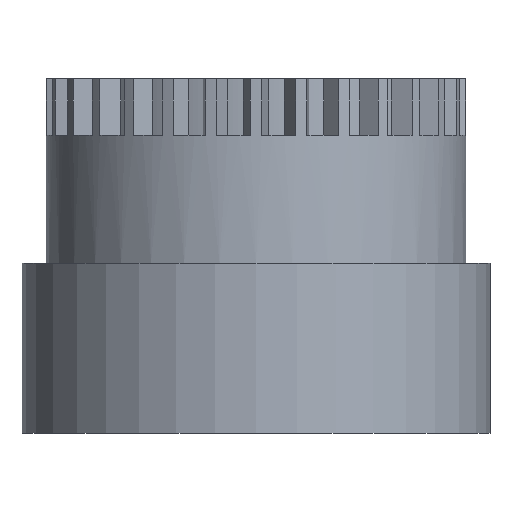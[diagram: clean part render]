
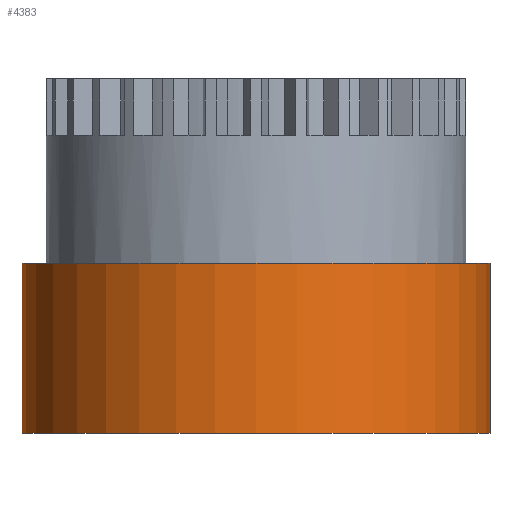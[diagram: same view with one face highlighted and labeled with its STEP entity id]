
A CAD part, front view. The second image highlights one B-rep face of the part: STEP entity #4383.
In plain terms, the highlighted cylindrical face has radius 16.5 mm (diameter 33 mm), a partial arc.
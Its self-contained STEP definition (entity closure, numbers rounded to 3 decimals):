
#60 = ORIENTED_EDGE ( 'NONE', *, *, #3677, .T. ) ;
#203 = VERTEX_POINT ( 'NONE', #4237 ) ;
#377 = CARTESIAN_POINT ( 'NONE',  ( -16.5, 0., 0. ) ) ;
#549 = VECTOR ( 'NONE', #908, 1000. ) ;
#601 = AXIS2_PLACEMENT_3D ( 'NONE', #2697, #942, #2349 ) ;
#886 = DIRECTION ( 'NONE',  ( 0., 0., -1. ) ) ;
#908 = DIRECTION ( 'NONE',  ( 0., 0., -1. ) ) ;
#910 = AXIS2_PLACEMENT_3D ( 'NONE', #1648, #2013, #2310 ) ;
#942 = DIRECTION ( 'NONE',  ( 0., 0., 1. ) ) ;
#950 = LINE ( 'NONE', #2268, #1566 ) ;
#1566 = VECTOR ( 'NONE', #3746, 1000. ) ;
#1633 = FACE_OUTER_BOUND ( 'NONE', #3945, .T. ) ;
#1648 = CARTESIAN_POINT ( 'NONE',  ( 0., 0., 0. ) ) ;
#1681 = CARTESIAN_POINT ( 'NONE',  ( 0., 0., 2. ) ) ;
#1799 = ORIENTED_EDGE ( 'NONE', *, *, #1920, .F. ) ;
#1890 = EDGE_CURVE ( 'NONE', #3158, #4113, #2812, .T. ) ;
#1920 = EDGE_CURVE ( 'NONE', #4113, #203, #950, .T. ) ;
#1955 = CARTESIAN_POINT ( 'NONE',  ( -16.5, 0., 2. ) ) ;
#2013 = DIRECTION ( 'NONE',  ( 0., 0., 1. ) ) ;
#2114 = AXIS2_PLACEMENT_3D ( 'NONE', #1681, #886, #4442 ) ;
#2268 = CARTESIAN_POINT ( 'NONE',  ( 16.5, 0., 2. ) ) ;
#2273 = CYLINDRICAL_SURFACE ( 'NONE', #2114, 16.5 ) ;
#2310 = DIRECTION ( 'NONE',  ( 1., 0., 0. ) ) ;
#2349 = DIRECTION ( 'NONE',  ( 1., 0., 0. ) ) ;
#2529 = CARTESIAN_POINT ( 'NONE',  ( -16.5, 0., 12. ) ) ;
#2697 = CARTESIAN_POINT ( 'NONE',  ( 0., 0., 12. ) ) ;
#2788 = CARTESIAN_POINT ( 'NONE',  ( 16.5, 0., 12. ) ) ;
#2812 = CIRCLE ( 'NONE', #601, 16.5 ) ;
#2902 = CIRCLE ( 'NONE', #910, 16.5 ) ;
#3158 = VERTEX_POINT ( 'NONE', #2529 ) ;
#3384 = EDGE_CURVE ( 'NONE', #3158, #3442, #4488, .T. ) ;
#3442 = VERTEX_POINT ( 'NONE', #377 ) ;
#3677 = EDGE_CURVE ( 'NONE', #3442, #203, #2902, .T. ) ;
#3746 = DIRECTION ( 'NONE',  ( 0., 0., -1. ) ) ;
#3945 = EDGE_LOOP ( 'NONE', ( #1799, #3946, #4537, #60 ) ) ;
#3946 = ORIENTED_EDGE ( 'NONE', *, *, #1890, .F. ) ;
#4113 = VERTEX_POINT ( 'NONE', #2788 ) ;
#4237 = CARTESIAN_POINT ( 'NONE',  ( 16.5, 0., 0. ) ) ;
#4383 = ADVANCED_FACE ( 'NONE', ( #1633 ), #2273, .T. ) ;
#4442 = DIRECTION ( 'NONE',  ( -1., 0., 0. ) ) ;
#4488 = LINE ( 'NONE', #1955, #549 ) ;
#4537 = ORIENTED_EDGE ( 'NONE', *, *, #3384, .T. ) ;
